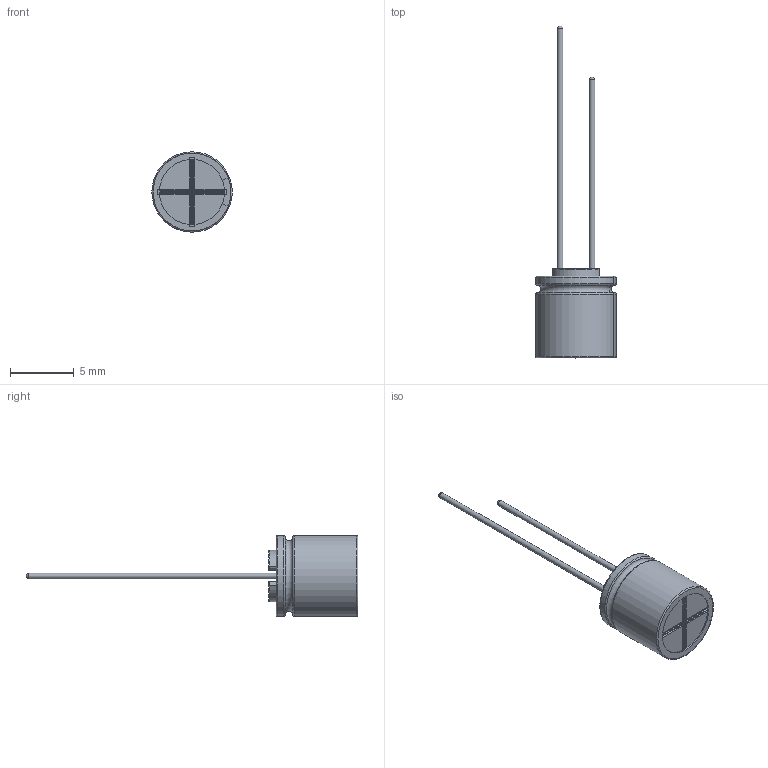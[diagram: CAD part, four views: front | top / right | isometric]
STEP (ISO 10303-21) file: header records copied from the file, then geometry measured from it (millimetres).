
FILE_DESCRIPTION(/* description */ (''),/* implementation_level */ '2;1');
FILE_NAME(/* name */ '6.3x7_Lead.stp',/* time_stamp */ '2017-09-05T13:40:46+09:00',/* author */ (''),/* organization */ (''),/* preprocessor_version */ 'ST-DEVELOPER v16',/* originating_system */ 'SIEMENS PLM Software NX 11.0',/* authorisation */ '');
FILE_SCHEMA (('AUTOMOTIVE_DESIGN { 1 0 10303 214 3 1 1 1 }'));
Length unit declared in the file: millimetre
Products named in the file (1): 6.3x7_Lead_0
Bounding box: 6.29 x 26 x 6.3 mm (x, y, z)
Volume: 202.5 mm3; surface area: 550.5 mm2
Topology: 3 solids, 3 shells, 120 faces, 296 edges, 185 vertices
Faces by surface type: cylinder 52, plane 31, torus 27, sphere 6, bspline 4
Full cylindrical faces by diameter (mm): 0.45 x2, 6.1 x2
Entity records: 4235 total; most frequent: CARTESIAN_POINT 701, DIRECTION 684, ORIENTED_EDGE 568, EDGE_CURVE 284, AXIS2_PLACEMENT_3D 283, VERTEX_POINT 180, CIRCLE 158, EDGE_LOOP 130
